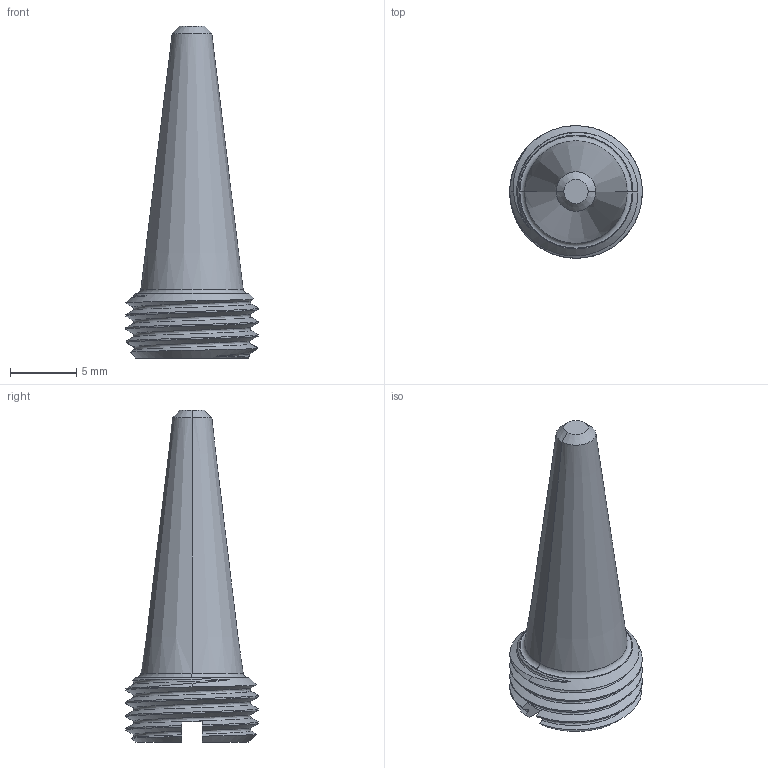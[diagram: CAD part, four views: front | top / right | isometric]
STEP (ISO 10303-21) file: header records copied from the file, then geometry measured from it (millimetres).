
FILE_DESCRIPTION (( 'STEP AP214' ), '1' );
FILE_NAME ('3DFSHB1003200M.STEP', '2021-03-31T18:17:03', ( '' ), ( '' ), 'SwSTEP 2.0', 'SolidWorks 2019', '' );
FILE_SCHEMA (( 'AUTOMOTIVE_DESIGN' ));
Length unit declared in the file: inch
Products named in the file (1): 3DFSHB1003200M
Bounding box: 10 x 10 x 25.04 mm (x, y, z)
Volume: 787.2 mm3; surface area: 660.1 mm2
Topology: 1 solids, 1 shells, 229 faces, 611 edges, 406 vertices
Faces by surface type: plane 119, bspline 90, cone 10, cylinder 8, torus 2
Entity records: 19566 total; most frequent: CARTESIAN_POINT 12083, ORIENTED_EDGE 1222, DIRECTION 687, EDGE_CURVE 611, VERTEX_POINT 406, VECTOR 373, LINE 373, EDGE_LOOP 251
